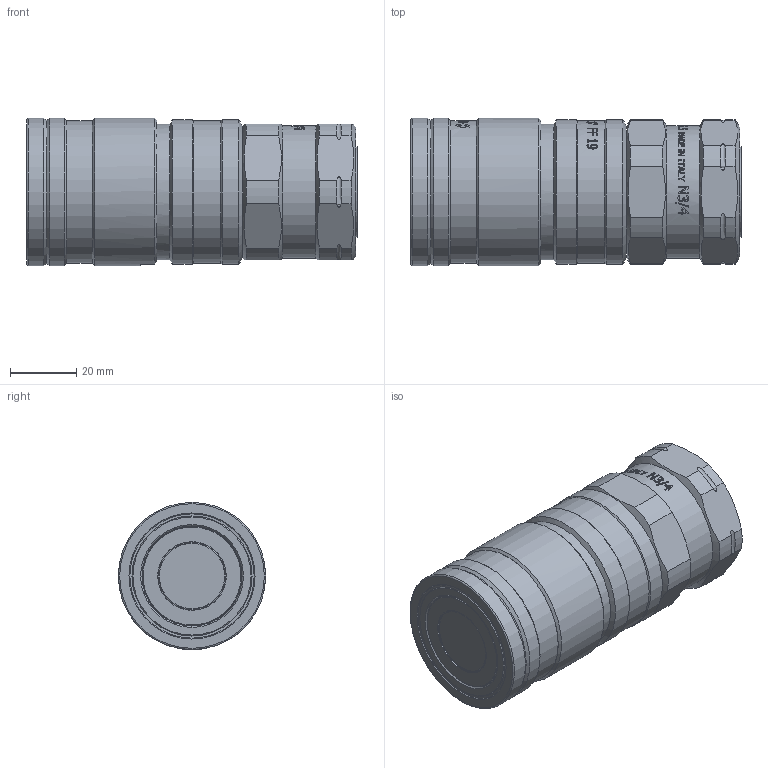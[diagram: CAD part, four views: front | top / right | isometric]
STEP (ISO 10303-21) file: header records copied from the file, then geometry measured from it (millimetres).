
FILE_DESCRIPTION(/* description */ (''),/* implementation_level */ '2;1');
FILE_NAME(/* name */ 'NC06N040005.stp',/* time_stamp */ '2024-08-26T16:43:54+02:00',/* author */ ('thomas.belotti'),/* organization */ (''),/* preprocessor_version */ 'ST-DEVELOPER v20',/* originating_system */ 'Autodesk Inventor 2024',/* authorisation */ '');
FILE_SCHEMA (('AUTOMOTIVE_DESIGN { 1 0 10303 214 3 1 1 }'));
Products named in the file (1): Parte15
Bounding box: 99.81 x 44.5 x 44.5 mm (x, y, z)
Volume: 135826.8 mm3; surface area: 26571.6 mm2
Topology: 1 solids, 3 shells, 1780 faces, 5023 edges, 3346 vertices
Faces by surface type: bspline 1168, plane 454, cylinder 128, cone 21, torus 9
Full cylindrical faces by diameter (mm): 20.75 x1, 22.631 x1, 23 x1, 24 x1, 27.5 x1, 30 x1, 37 x1, 37.3 x1, 40 x1, 40.9 x1, 40.936 x1, 41.1 x1, 43 x2, 43.6 x1, 43.7 x1, 44.5 x3
Entity records: 76702 total; most frequent: CARTESIAN_POINT 36901, ORIENTED_EDGE 10046, EDGE_CURVE 5023, DIRECTION 4161, VERTEX_POINT 3345, B_SPLINE_CURVE_WITH_KNOTS 2573, LINE 1905, VECTOR 1905
